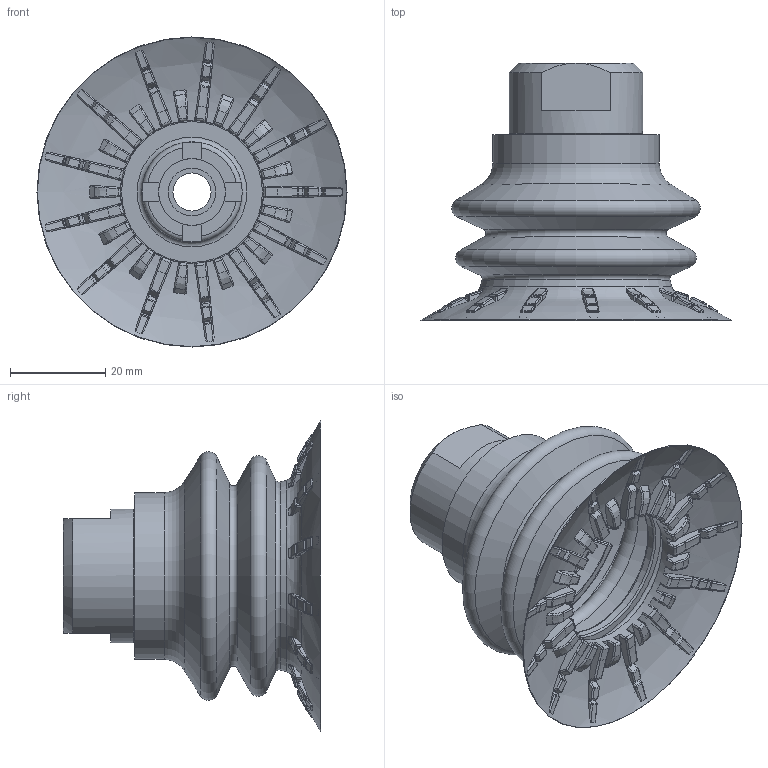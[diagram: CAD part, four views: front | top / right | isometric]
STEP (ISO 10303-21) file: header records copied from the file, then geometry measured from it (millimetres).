
FILE_DESCRIPTION (( 'STEP AP214' ), '1' );
FILE_NAME ('MB65P-3060T-G38FS.STEP', '2026-05-27T19:48:08', ( '' ), ( '' ), 'SwSTEP 2.0', 'SolidWorks 2025', '' );
FILE_SCHEMA (( 'AUTOMOTIVE_DESIGN' ));
Length unit declared in the file: inch
Products named in the file (3): MB65P-3060T-G38FS; 25050-21_默认; MB65P-3060T
Assembly tree (2 placements, depth 2):
  MB65P-3060T-G38FS
    25050-21_默认
    MB65P-3060T
Bounding box: 65 x 54 x 65 mm (x, y, z)
Volume: 29233 mm3; surface area: 25074.2 mm2
Topology: 2 solids, 2 shells, 1990 faces, 4675 edges, 2700 vertices
Faces by surface type: bspline 812, plane 305, cylinder 258, torus 251, sphere 236, cone 128
Full cylindrical faces by diameter (mm): 8 x1, 10 x1, 10.5 x1, 11.5 x2, 12.5 x1, 13 x1, 14 x1, 15 x1, 18.5 x1, 21 x1, 28 x1, 30 x1, 31 x1, 35 x1, 36 x1
Entity records: 71058 total; most frequent: CARTESIAN_POINT 32371, ORIENTED_EDGE 9160, DIRECTION 6656, EDGE_CURVE 4580, AXIS2_PLACEMENT_3D 3084, VERTEX_POINT 2685, B_SPLINE_CURVE_WITH_KNOTS 2139, EDGE_LOOP 2085
